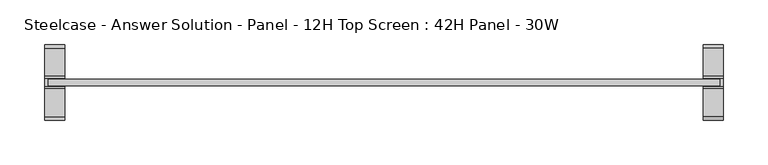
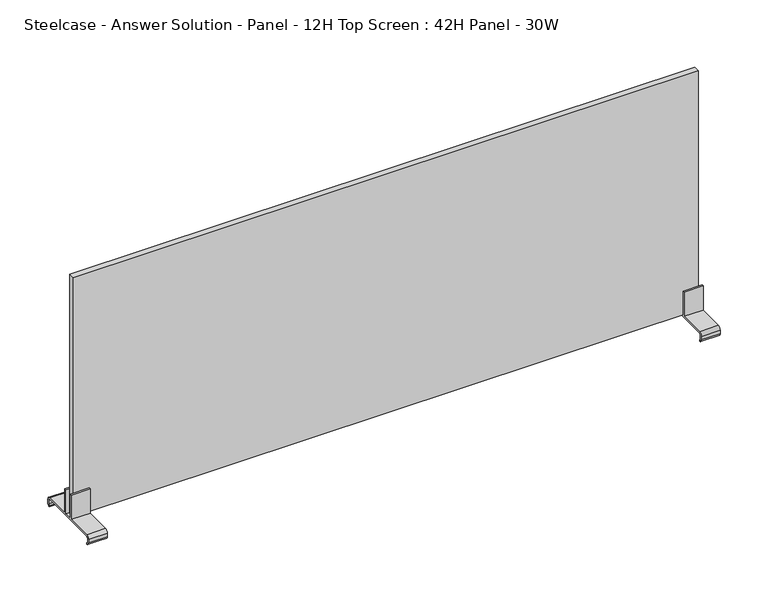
"""IFC4 building model written with IfcOpenShell, lengths in millimetres: furniture geometry, Steelcase - Answer Solution - Panel - 12H Top Screen : 42H Panel - 30W."""

import ifcopenshell
import ifcopenshell.guid

model = None  # the IFC model being written
_history = None  # IfcOwnerHistory: only IFC2X3 demands one
_inside = {}  # id of a spatial element -> (the spatial element, [elements in it])
_under = {}  # id of a project, library or spatial element -> (it, [spatial elements below it])
_declared = {}  # id of a project -> (the project, [libraries it declares])
_typed = {}  # id of a type object -> (the type object, [elements of that type])
_made_of = {}  # id of a material, layer set ... -> (it, [elements and type objects made of it])


def new_model(schema):
    """Start an empty IFC model of exactly this schema.

    Asked for "IFC4X3", IfcOpenShell would pick the latest addendum, in which some entities
    have other attributes; the version numbers below select the first issue.
    IFC2X3 requires an IfcOwnerHistory on every rooted entity: one is made here for all.
    """
    global model, _history
    if schema == "IFC4X3":
        model = ifcopenshell.file(schema_version=(4, 3, 0, 0))
    else:
        model = ifcopenshell.file(schema=schema)
    _inside.clear()
    _under.clear()
    _declared.clear()
    _typed.clear()
    _made_of.clear()
    _history = None
    if model.schema == "IFC2X3":
        org = make("IfcOrganization", Name="unknown")
        user = make(
            "IfcPersonAndOrganization",
            ThePerson=make("IfcPerson", FamilyName="unknown"),
            TheOrganization=org,
        )
        app = make(
            "IfcApplication",
            ApplicationDeveloper=org,
            Version="unknown",
            ApplicationFullName="unknown",
            ApplicationIdentifier="unknown",
        )
        _history = make(
            "IfcOwnerHistory",
            OwningUser=user,
            OwningApplication=app,
            ChangeAction="ADDED",
            CreationDate=0,
        )
    return model


def make(cls, **values):
    """One entity of the class cls with the attributes given. An attribute that is None is left unset."""
    return model.create_entity(
        cls, **{name: value for name, value in values.items() if value is not None}
    )


def rooted(cls, **values):
    """An entity with a GlobalId (a new one), such as an element, a storey or a relation."""
    return make(cls, GlobalId=ifcopenshell.guid.new(), OwnerHistory=_history, **values)


def si_unit(unit_type, name, prefix=None):
    """IfcSIUnit, for example si_unit("LENGTHUNIT", "METRE", prefix="MILLI")."""
    return make("IfcSIUnit", UnitType=unit_type, Prefix=prefix, Name=name)


def assignment(units):
    """IfcUnitAssignment: the units of a project."""
    return None if units is None else make("IfcUnitAssignment", Units=units)


def point(xyz):
    """IfcCartesianPoint."""
    return None if xyz is None else make("IfcCartesianPoint", Coordinates=xyz)


def direction(xyz):
    """IfcDirection."""
    return None if xyz is None else make("IfcDirection", DirectionRatios=xyz)


def frame(location, z_axis=None, x_axis=None):
    """IfcAxis2Placement3D, a coordinate frame: its origin and axes. An axis left out is left unset."""
    return make(
        "IfcAxis2Placement3D",
        Location=point(location),
        Axis=direction(z_axis),
        RefDirection=direction(x_axis),
    )


def frame_2d(location, x_axis=None):
    """IfcAxis2Placement2D, a coordinate frame in the plane: its origin and x axis."""
    return make(
        "IfcAxis2Placement2D", Location=point(location), RefDirection=direction(x_axis)
    )


def origin():
    """The frame at (0, 0, 0) with its axes left unset."""
    return frame((0.0, 0.0, 0.0))


def place(relative_to, where):
    """IfcLocalPlacement: puts the frame where relative to a parent placement (None: the world)."""
    return make(
        "IfcLocalPlacement", PlacementRelTo=relative_to, RelativePlacement=where
    )


def context(
    kind, dimensions, precision=None, world=None, true_north=None, identifier=None
):
    """IfcGeometricRepresentationContext, for example the 3D "Model" context."""
    return make(
        "IfcGeometricRepresentationContext",
        ContextIdentifier=identifier,
        ContextType=kind,
        CoordinateSpaceDimension=dimensions,
        Precision=precision,
        WorldCoordinateSystem=world,
        TrueNorth=true_north,
    )


def project(units=None, contexts=None):
    """IfcProject with its units and contexts."""
    return rooted(
        "IfcProject",
        Name="project",
        RepresentationContexts=contexts,
        UnitsInContext=assignment(units),
    )


def spatial(cls, under=None, at=None, **own):
    """A site, building, storey or space (cls), placed at a placement, below another one or the project."""
    s = rooted(cls, ObjectPlacement=at, **own)
    if under is not None:
        _under.setdefault(under.id(), (under, []))[1].append(s)
    return s


def polyline(points):
    """IfcPolyline through the points."""
    return make("IfcPolyline", Points=[point(p) for p in points])


def circle_curve(where, radius):
    """IfcCircle in the frame where."""
    return make("IfcCircle", Position=where, Radius=radius)


def trimmed(basis, trim1, trim2, sense, master):
    """IfcTrimmedCurve: the piece of a basis curve between two trims."""
    return make(
        "IfcTrimmedCurve",
        BasisCurve=basis,
        Trim1=trim1,
        Trim2=trim2,
        SenseAgreement=sense,
        MasterRepresentation=master,
    )


def segment(curve, same_sense, transition):
    """IfcCompositeCurveSegment."""
    return make(
        "IfcCompositeCurveSegment",
        Transition=transition,
        SameSense=same_sense,
        ParentCurve=curve,
    )


def composite_curve(segments, self_intersect=None):
    """IfcCompositeCurve: segments joined end to end."""
    return make("IfcCompositeCurve", Segments=segments, SelfIntersect=self_intersect)


def outline(outer, holes=None, kind="AREA"):
    """IfcArbitraryClosedProfileDef: a profile drawn as a closed curve; with holes, ...WithVoids."""
    if holes is None:
        return make("IfcArbitraryClosedProfileDef", ProfileType=kind, OuterCurve=outer)
    return make(
        "IfcArbitraryProfileDefWithVoids",
        ProfileType=kind,
        OuterCurve=outer,
        InnerCurves=holes,
    )


def extrude(swept, where, along, depth):
    """IfcExtrudedAreaSolid: the profile swept, set in the frame where, extruded along a direction by depth."""
    return make(
        "IfcExtrudedAreaSolid",
        SweptArea=swept,
        Position=where,
        ExtrudedDirection=direction(along),
        Depth=depth,
    )


def shape(context_of_items, identifier, shape_type, items):
    """IfcShapeRepresentation: the items that make up one representation, for example the "Body"."""
    return make(
        "IfcShapeRepresentation",
        ContextOfItems=context_of_items,
        RepresentationIdentifier=identifier,
        RepresentationType=shape_type,
        Items=items,
    )


def source(mapping_origin, context_of_items, identifier, shape_type, items):
    """IfcRepresentationMap: a shape defined once, which mapped items show again and again."""
    return make(
        "IfcRepresentationMap",
        MappingOrigin=mapping_origin,
        MappedRepresentation=shape(context_of_items, identifier, shape_type, items),
    )


def transform(
    local_origin,
    x_axis=None,
    y_axis=None,
    z_axis=None,
    scale=None,
    scale2=None,
    scale3=None,
    uniform=True,
):
    """IfcCartesianTransformationOperator3D, or its non-uniform kind. x_axis, y_axis, z_axis: its Axis1, 2, 3."""
    if uniform:
        return make(
            "IfcCartesianTransformationOperator3D",
            Axis1=direction(x_axis),
            Axis2=direction(y_axis),
            LocalOrigin=point(local_origin),
            Scale=scale,
            Axis3=direction(z_axis),
        )
    return make(
        "IfcCartesianTransformationOperator3DnonUniform",
        Axis1=direction(x_axis),
        Axis2=direction(y_axis),
        LocalOrigin=point(local_origin),
        Scale=scale,
        Axis3=direction(z_axis),
        Scale2=scale2,
        Scale3=scale3,
    )


def mapped(mapping_source, mapping_target):
    """IfcMappedItem: shows the shape of a source again, moved by a transform."""
    return make(
        "IfcMappedItem", MappingSource=mapping_source, MappingTarget=mapping_target
    )


def made_of(thing, what):
    """Note that an element or type object is made of a material, layer set ...; save() writes the relation."""
    if what is not None:
        _made_of.setdefault(what.id(), (what, []))[1].append(thing)
    return thing


def element(
    cls,
    number,
    at=None,
    inside=None,
    cuts=None,
    type_object=None,
    material=None,
    context=None,
    identifier="Body",
    shape_type=None,
    held_by="IfcProductDefinitionShape",
    body=None,
    shapes=None,
    **own,
):
    """One element of the class cls, such as IfcWall. Its Tag is "e" and its number.

    at: its placement. inside: the storey or other place that contains it. cuts: it is an
    opening in that element (IfcRelVoidsElement). A single representation is given by context,
    identifier, shape_type and body (its items); several are given by shapes. held_by: the class
    of the entity that holds the representations. save() writes the other relations.
    """
    e = rooted(cls, Tag="e%d" % number, ObjectPlacement=at, **own)
    if body is not None:
        shapes = [shape(context, identifier, shape_type, body)]
    if shapes is not None:
        e.Representation = make(held_by, Representations=shapes)
    if inside is not None:
        _inside.setdefault(inside.id(), (inside, []))[1].append(e)
    if cuts is not None:
        rooted(
            "IfcRelVoidsElement", RelatingBuildingElement=cuts, RelatedOpeningElement=e
        )
    if type_object is not None:
        _typed.setdefault(type_object.id(), (type_object, []))[1].append(e)
    return made_of(e, material)


def aggregate(whole, parts):
    """IfcRelAggregates: a whole, such as a stair, and the parts it consists of."""
    return rooted("IfcRelAggregates", RelatingObject=whole, RelatedObjects=parts)


def save(model, path):
    """Write the relations noted so far, then the file.

    IfcRelAggregates (storeys below a building ...), IfcRelContainedInSpatialStructure (elements
    in a storey), IfcRelDefinesByType, IfcRelAssociatesMaterial and IfcRelDeclares: one each for
    every whole, place, type object, material and project.
    """
    for whole, parts in _under.values():
        aggregate(whole, parts)
    for where, things in _inside.values():
        rooted(
            "IfcRelContainedInSpatialStructure",
            RelatedElements=things,
            RelatingStructure=where,
        )
    for kind, things in _typed.values():
        rooted("IfcRelDefinesByType", RelatedObjects=things, RelatingType=kind)
    for what, things in _made_of.values():
        rooted("IfcRelAssociatesMaterial", RelatedObjects=things, RelatingMaterial=what)
    for by, libraries in _declared.values():
        rooted("IfcRelDeclares", RelatingContext=by, RelatedDefinitions=libraries)
    model.write(path)


def steelcase_answer_solution_panel_12h_top_screen_42h_panel_30w_a093cbe6(model_context):
    return source(origin(), model_context, "Body", "SweptSolid", [
        extrude(outline(polyline([(376.936, -3.683001), (-376.936, -3.683001), (-376.936, 3.683001), (376.936, 3.683001), (376.936, -3.683001)])), frame((0.0, 0.0, 1075.1819981), z_axis=(0.0, 0.0, 1.0), x_axis=(1.0, 0.0, 0.0)), (0.0, 0.0, 1.0), 304.8),
        extrude(outline(composite_curve([segment(trimmed(circle_curve(frame_2d((38.5445, 1071.245)), 1.905), [point((40.4495, 1071.245))], [point((38.5445, 1073.15))], True, "CARTESIAN"), True, "CONTINUOUS"), segment(polyline([(38.5445, 1073.15), (-38.5445, 1073.15)]), True, "CONTINUOUS"), segment(trimmed(circle_curve(frame_2d((-38.5445, 1071.245)), 1.905), [point((-38.5445, 1073.15))], [point((-40.4495, 1071.245))], True, "CARTESIAN"), True, "CONTINUOUS"), segment(polyline([(-40.4495, 1071.245), (-40.4495, 1066.6341187)]), True, "CONTINUOUS"), segment(trimmed(circle_curve(frame_2d((-38.5445, 1066.6341187)), 1.905), [point((-40.4495, 1066.6341187))], [point((-38.6743328, 1064.7335481))], True, "CARTESIAN"), True, "CONTINUOUS"), segment(polyline([(-38.6743328, 1064.7335481), (-39.2392449, 1063.1535566)]), True, "CONTINUOUS"), segment(trimmed(circle_curve(frame_2d((-38.5459934, 1067.0284569)), 3.9364261), [point((-39.2392449, 1063.1535566))], [point((-42.4824195, 1067.0284569))], False, "CARTESIAN"), True, "CONTINUOUS"), segment(polyline([(-42.4824195, 1067.0284569), (-42.4824195, 1071.2452288)]), True, "CONTINUOUS"), segment(trimmed(circle_curve(frame_2d((-38.5459934, 1071.2452288)), 3.9364261), [point((-42.4824195, 1071.2452288))], [point((-38.5459934, 1075.1816549))], False, "CARTESIAN"), True, "CONTINUOUS"), segment(polyline([(-38.5459934, 1075.1816549), (-6.7310004, 1075.1816549), (-6.7310004, 1106.1699952), (-4.699, 1106.1699952), (-4.699, 1075.1819952), (4.699, 1075.1819952), (4.699, 1106.1700048), (6.7310004, 1106.1700048), (6.7310004, 1075.1816549), (38.5459934, 1075.1816549)]), True, "CONTINUOUS"), segment(trimmed(circle_curve(frame_2d((38.5459934, 1071.2452288)), 3.9364261), [point((38.5459934, 1075.1816549))], [point((42.4824195, 1071.2452288))], False, "CARTESIAN"), True, "CONTINUOUS"), segment(polyline([(42.4824195, 1071.2452288), (42.4824195, 1067.0284569)]), True, "CONTINUOUS"), segment(trimmed(circle_curve(frame_2d((38.5459934, 1067.0284569)), 3.9364261), [point((42.4824195, 1067.0284569))], [point((39.6631716, 1063.2538889))], False, "CARTESIAN"), True, "CONTINUOUS"), segment(polyline([(39.6631716, 1063.2538889), (39.1055128, 1064.8135996)]), True, "CONTINUOUS"), segment(trimmed(circle_curve(frame_2d((38.5445, 1066.6341187)), 1.905), [point((39.1055128, 1064.8135996))], [point((40.4495, 1066.6341187))], True, "CARTESIAN"), True, "CONTINUOUS"), segment(polyline([(40.4495, 1066.6341187), (40.4495, 1071.245)]), True, "CONTINUOUS")], self_intersect=False)), frame((358.394, 0.0, 0.0), z_axis=(1.0, 0.0, 0.0), x_axis=(0.0, 1.0, 0.0)), (0.0, 0.0, 1.0), 22.606),
        extrude(outline(composite_curve([segment(trimmed(circle_curve(frame_2d((38.5445, 1071.245)), 1.905), [point((40.4495, 1071.245))], [point((38.5445, 1073.15))], True, "CARTESIAN"), True, "CONTINUOUS"), segment(polyline([(38.5445, 1073.15), (-38.5445, 1073.15)]), True, "CONTINUOUS"), segment(trimmed(circle_curve(frame_2d((-38.5445, 1071.245)), 1.905), [point((-38.5445, 1073.15))], [point((-40.4495, 1071.245))], True, "CARTESIAN"), True, "CONTINUOUS"), segment(polyline([(-40.4495, 1071.245), (-40.4495, 1066.6341187)]), True, "CONTINUOUS"), segment(trimmed(circle_curve(frame_2d((-38.5445, 1066.6341187)), 1.905), [point((-40.4495, 1066.6341187))], [point((-38.6743328, 1064.7335481))], True, "CARTESIAN"), True, "CONTINUOUS"), segment(polyline([(-38.6743328, 1064.7335481), (-39.2392449, 1063.1535566)]), True, "CONTINUOUS"), segment(trimmed(circle_curve(frame_2d((-38.5459934, 1067.0284569)), 3.9364261), [point((-39.2392449, 1063.1535566))], [point((-42.4824195, 1067.0284569))], False, "CARTESIAN"), True, "CONTINUOUS"), segment(polyline([(-42.4824195, 1067.0284569), (-42.4824195, 1071.2452288)]), True, "CONTINUOUS"), segment(trimmed(circle_curve(frame_2d((-38.5459934, 1071.2452288)), 3.9364261), [point((-42.4824195, 1071.2452288))], [point((-38.5459934, 1075.1816549))], False, "CARTESIAN"), True, "CONTINUOUS"), segment(polyline([(-38.5459934, 1075.1816549), (-6.7310004, 1075.1816549), (-6.7310004, 1106.1699952), (-4.699, 1106.1699952), (-4.699, 1075.1819952), (4.699, 1075.1819952), (4.699, 1106.1700048), (6.7310004, 1106.1700048), (6.7310004, 1075.1816549), (38.5459934, 1075.1816549)]), True, "CONTINUOUS"), segment(trimmed(circle_curve(frame_2d((38.5459934, 1071.2452288)), 3.9364261), [point((38.5459934, 1075.1816549))], [point((42.4824195, 1071.2452288))], False, "CARTESIAN"), True, "CONTINUOUS"), segment(polyline([(42.4824195, 1071.2452288), (42.4824195, 1067.0284569)]), True, "CONTINUOUS"), segment(trimmed(circle_curve(frame_2d((38.5459934, 1067.0284569)), 3.9364261), [point((42.4824195, 1067.0284569))], [point((39.6631716, 1063.2538889))], False, "CARTESIAN"), True, "CONTINUOUS"), segment(polyline([(39.6631716, 1063.2538889), (39.1055128, 1064.8135996)]), True, "CONTINUOUS"), segment(trimmed(circle_curve(frame_2d((38.5445, 1066.6341187)), 1.905), [point((39.1055128, 1064.8135996))], [point((40.4495, 1066.6341187))], True, "CARTESIAN"), True, "CONTINUOUS"), segment(polyline([(40.4495, 1066.6341187), (40.4495, 1071.245)]), True, "CONTINUOUS")], self_intersect=False)), frame((-381.0, 0.0, 0.0), z_axis=(1.0, 0.0, 0.0), x_axis=(0.0, 1.0, 0.0)), (0.0, 0.0, 1.0), 22.606),
    ])


if __name__ == "__main__":
    model = new_model("IFC4")
    model_context = context("Model", 3, world=origin())
    ifc_project = project(units=[si_unit("LENGTHUNIT", "METRE", prefix="MILLI")], contexts=[model_context])
    site = spatial("IfcSite", under=ifc_project)
    building = spatial("IfcBuilding", under=site)
    placement = place(None, origin())
    steelcase_answer_solution_panel_12h_top_screen_42h_panel_30w_shape = steelcase_answer_solution_panel_12h_top_screen_42h_panel_30w_a093cbe6(model_context)
    element("IfcFurniture", 1, ObjectType="Steelcase - Answer Solution - Panel - 12H Top Screen : 42H Panel - 30W", at=placement, inside=building, context=model_context, shape_type="MappedRepresentation", body=[
        mapped(steelcase_answer_solution_panel_12h_top_screen_42h_panel_30w_shape, transform((0.0, 0.0, 0.0), x_axis=(1.0, 0.0, 0.0), y_axis=(0.0, 1.0, 0.0), z_axis=(0.0, 0.0, 1.0))),
    ])
    save(model, "model.ifc")
